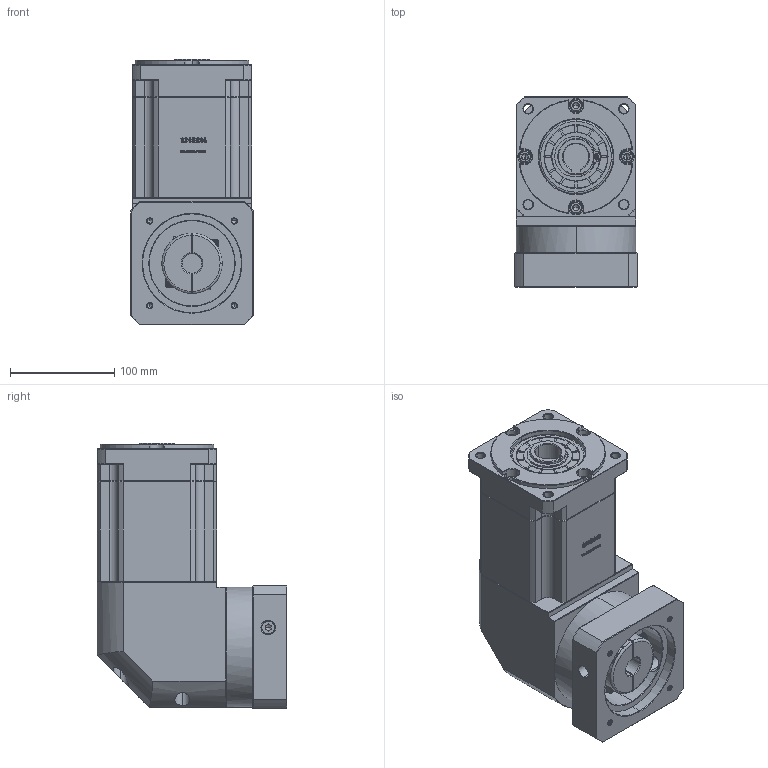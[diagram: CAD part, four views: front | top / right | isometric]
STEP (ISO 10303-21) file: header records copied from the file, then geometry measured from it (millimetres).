
FILE_DESCRIPTION (( 'STEP AP214' ), '1' );
FILE_NAME ('ZBR115A-K25-L3-19-95-115-M6.step', '2023-03-03T05:08:20', ( '' ), ( 'Microsoft' ), 'SwSTEP 2.0', 'SolidWorks 2016', '' );
FILE_SCHEMA (( 'AUTOMOTIVE_DESIGN' ));
Length unit declared in the file: millimetre
Products named in the file (1): ZBR115A-K25-L3-19-95-115-M6
Bounding box: 118 x 182.4 x 255 mm (x, y, z)
Volume: 3477970.6 mm3; surface area: 260827.2 mm2
Topology: 6 solids, 6 shells, 2914 faces, 7737 edges, 4968 vertices
Faces by surface type: plane 1551, bspline 601, cylinder 391, cone 363, torus 8
Entity records: 156765 total; most frequent: CARTESIAN_POINT 56913, ORIENTED_EDGE 15418, DIRECTION 11715, EDGE_CURVE 7709, LINE 5235, VECTOR 5235, VERTEX_POINT 4968, AXIS2_PLACEMENT_3D 3240
